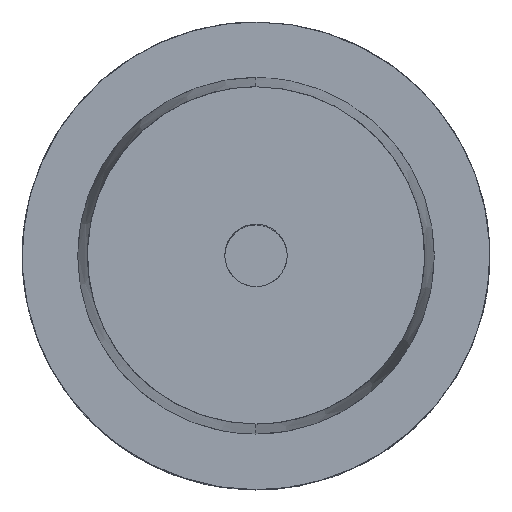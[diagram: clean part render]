
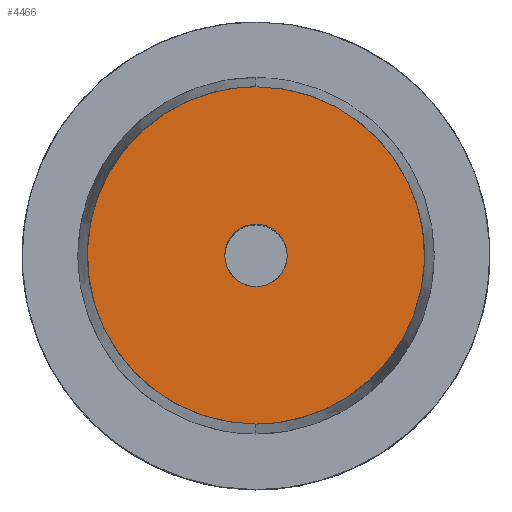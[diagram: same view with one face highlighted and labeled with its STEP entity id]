
A CAD part, top view. The second image highlights one B-rep face of the part: STEP entity #4466.
In plain terms, the highlighted planar face has unit normal (0, 0, -1).
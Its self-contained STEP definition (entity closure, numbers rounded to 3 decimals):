
#4466 = ADVANCED_FACE('',(#4467,#4514),#4483,.T.);
#4467 = FACE_BOUND('',#4468,.T.);
#4468 = EDGE_LOOP('',(#4469,#4496));
#4469 = ORIENTED_EDGE('',*,*,#4470,.T.);
#4470 = EDGE_CURVE('',#4471,#4473,#4475,.T.);
#4471 = VERTEX_POINT('',#4472);
#4472 = CARTESIAN_POINT('',(0.,22.717,32.));
#4473 = VERTEX_POINT('',#4474);
#4474 = CARTESIAN_POINT('',(0.,-22.717,32.));
#4475 = SURFACE_CURVE('',#4476,(#4482),.PCURVE_S1.);
#4476 = ( BOUNDED_CURVE() B_SPLINE_CURVE(2,(#4477,#4478,#4479,#4480,
#4481),.UNSPECIFIED.,.F.,.F.) B_SPLINE_CURVE_WITH_KNOTS((3,2,3),(0.,0.5,
1.),.PIECEWISE_BEZIER_KNOTS.) CURVE() GEOMETRIC_REPRESENTATION_ITEM() 
RATIONAL_B_SPLINE_CURVE((1.,0.707,1.,0.707,1.)) 
REPRESENTATION_ITEM('') );
#4477 = CARTESIAN_POINT('',(0.,22.717,32.));
#4478 = CARTESIAN_POINT('',(22.717,22.717,32.));
#4479 = CARTESIAN_POINT('',(22.717,0.,32.));
#4480 = CARTESIAN_POINT('',(22.717,-22.717,32.));
#4481 = CARTESIAN_POINT('',(0.,-22.717,32.));
#4482 = PCURVE('',#4483,#4488);
#4483 = PLANE('',#4484);
#4484 = AXIS2_PLACEMENT_3D('',#4485,#4486,#4487);
#4485 = CARTESIAN_POINT('',(0.,0.,32.)
  );
#4486 = DIRECTION('',(0.,0.,-1.));
#4487 = DIRECTION('',(0.,1.,0.));
#4488 = DEFINITIONAL_REPRESENTATION('',(#4489),#4495);
#4489 = ( BOUNDED_CURVE() B_SPLINE_CURVE(2,(#4490,#4491,#4492,#4493,
#4494),.UNSPECIFIED.,.F.,.F.) B_SPLINE_CURVE_WITH_KNOTS((3,2,3),(0.,0.5,
1.),.PIECEWISE_BEZIER_KNOTS.) CURVE() GEOMETRIC_REPRESENTATION_ITEM() 
RATIONAL_B_SPLINE_CURVE((1.,0.707,1.,0.707,1.)) 
REPRESENTATION_ITEM('') );
#4490 = CARTESIAN_POINT('',(22.717,0.));
#4491 = CARTESIAN_POINT('',(22.717,22.717));
#4492 = CARTESIAN_POINT('',(0.,22.717));
#4493 = CARTESIAN_POINT('',(-22.717,22.717));
#4494 = CARTESIAN_POINT('',(-22.717,0.));
#4495 = ( GEOMETRIC_REPRESENTATION_CONTEXT(2) 
PARAMETRIC_REPRESENTATION_CONTEXT() REPRESENTATION_CONTEXT('2D SPACE',''
  ) );
#4496 = ORIENTED_EDGE('',*,*,#4497,.T.);
#4497 = EDGE_CURVE('',#4473,#4471,#4498,.T.);
#4498 = SURFACE_CURVE('',#4499,(#4505),.PCURVE_S1.);
#4499 = ( BOUNDED_CURVE() B_SPLINE_CURVE(2,(#4500,#4501,#4502,#4503,
#4504),.UNSPECIFIED.,.F.,.F.) B_SPLINE_CURVE_WITH_KNOTS((3,2,3),(0.,0.5,
1.),.PIECEWISE_BEZIER_KNOTS.) CURVE() GEOMETRIC_REPRESENTATION_ITEM() 
RATIONAL_B_SPLINE_CURVE((1.,0.707,1.,0.707,1.)) 
REPRESENTATION_ITEM('') );
#4500 = CARTESIAN_POINT('',(0.,-22.717,32.));
#4501 = CARTESIAN_POINT('',(-22.717,-22.717,32.));
#4502 = CARTESIAN_POINT('',(-22.717,0.,32.));
#4503 = CARTESIAN_POINT('',(-22.717,22.717,32.));
#4504 = CARTESIAN_POINT('',(0.,22.717,32.));
#4505 = PCURVE('',#4483,#4506);
#4506 = DEFINITIONAL_REPRESENTATION('',(#4507),#4513);
#4507 = ( BOUNDED_CURVE() B_SPLINE_CURVE(2,(#4508,#4509,#4510,#4511,
#4512),.UNSPECIFIED.,.F.,.F.) B_SPLINE_CURVE_WITH_KNOTS((3,2,3),(0.,0.5,
1.),.PIECEWISE_BEZIER_KNOTS.) CURVE() GEOMETRIC_REPRESENTATION_ITEM() 
RATIONAL_B_SPLINE_CURVE((1.,0.707,1.,0.707,1.)) 
REPRESENTATION_ITEM('') );
#4508 = CARTESIAN_POINT('',(-22.717,0.));
#4509 = CARTESIAN_POINT('',(-22.717,-22.717));
#4510 = CARTESIAN_POINT('',(0.,-22.717));
#4511 = CARTESIAN_POINT('',(22.717,-22.717));
#4512 = CARTESIAN_POINT('',(22.717,0.));
#4513 = ( GEOMETRIC_REPRESENTATION_CONTEXT(2) 
PARAMETRIC_REPRESENTATION_CONTEXT() REPRESENTATION_CONTEXT('2D SPACE',''
  ) );
#4514 = FACE_BOUND('',#4515,.T.);
#4515 = EDGE_LOOP('',(#4516,#4538));
#4516 = ORIENTED_EDGE('',*,*,#4517,.T.);
#4517 = EDGE_CURVE('',#4518,#4520,#4522,.T.);
#4518 = VERTEX_POINT('',#4519);
#4519 = CARTESIAN_POINT('',(0.,4.2,32.));
#4520 = VERTEX_POINT('',#4521);
#4521 = CARTESIAN_POINT('',(0.,-4.2,32.));
#4522 = SURFACE_CURVE('',#4523,(#4529),.PCURVE_S1.);
#4523 = ( BOUNDED_CURVE() B_SPLINE_CURVE(2,(#4524,#4525,#4526,#4527,
#4528),.UNSPECIFIED.,.F.,.F.) B_SPLINE_CURVE_WITH_KNOTS((3,2,3),(0.,0.5,
1.),.PIECEWISE_BEZIER_KNOTS.) CURVE() GEOMETRIC_REPRESENTATION_ITEM() 
RATIONAL_B_SPLINE_CURVE((1.,0.707,1.,0.707,1.)) 
REPRESENTATION_ITEM('') );
#4524 = CARTESIAN_POINT('',(0.,4.2,32.));
#4525 = CARTESIAN_POINT('',(-4.2,4.2,32.));
#4526 = CARTESIAN_POINT('',(-4.2,0.,32.));
#4527 = CARTESIAN_POINT('',(-4.2,-4.2,32.));
#4528 = CARTESIAN_POINT('',(0.,-4.2,32.));
#4529 = PCURVE('',#4483,#4530);
#4530 = DEFINITIONAL_REPRESENTATION('',(#4531),#4537);
#4531 = ( BOUNDED_CURVE() B_SPLINE_CURVE(2,(#4532,#4533,#4534,#4535,
#4536),.UNSPECIFIED.,.F.,.F.) B_SPLINE_CURVE_WITH_KNOTS((3,2,3),(0.,0.5,
1.),.PIECEWISE_BEZIER_KNOTS.) CURVE() GEOMETRIC_REPRESENTATION_ITEM() 
RATIONAL_B_SPLINE_CURVE((1.,0.707,1.,0.707,1.)) 
REPRESENTATION_ITEM('') );
#4532 = CARTESIAN_POINT('',(4.2,0.));
#4533 = CARTESIAN_POINT('',(4.2,-4.2));
#4534 = CARTESIAN_POINT('',(0.,-4.2));
#4535 = CARTESIAN_POINT('',(-4.2,-4.2));
#4536 = CARTESIAN_POINT('',(-4.2,0.));
#4537 = ( GEOMETRIC_REPRESENTATION_CONTEXT(2) 
PARAMETRIC_REPRESENTATION_CONTEXT() REPRESENTATION_CONTEXT('2D SPACE',''
  ) );
#4538 = ORIENTED_EDGE('',*,*,#4539,.T.);
#4539 = EDGE_CURVE('',#4520,#4518,#4540,.T.);
#4540 = SURFACE_CURVE('',#4541,(#4547),.PCURVE_S1.);
#4541 = ( BOUNDED_CURVE() B_SPLINE_CURVE(2,(#4542,#4543,#4544,#4545,
#4546),.UNSPECIFIED.,.F.,.F.) B_SPLINE_CURVE_WITH_KNOTS((3,2,3),(0.,0.5,
1.),.PIECEWISE_BEZIER_KNOTS.) CURVE() GEOMETRIC_REPRESENTATION_ITEM() 
RATIONAL_B_SPLINE_CURVE((1.,0.707,1.,0.707,1.)) 
REPRESENTATION_ITEM('') );
#4542 = CARTESIAN_POINT('',(0.,-4.2,32.));
#4543 = CARTESIAN_POINT('',(4.2,-4.2,32.));
#4544 = CARTESIAN_POINT('',(4.2,0.,32.));
#4545 = CARTESIAN_POINT('',(4.2,4.2,32.));
#4546 = CARTESIAN_POINT('',(0.,4.2,32.));
#4547 = PCURVE('',#4483,#4548);
#4548 = DEFINITIONAL_REPRESENTATION('',(#4549),#4555);
#4549 = ( BOUNDED_CURVE() B_SPLINE_CURVE(2,(#4550,#4551,#4552,#4553,
#4554),.UNSPECIFIED.,.F.,.F.) B_SPLINE_CURVE_WITH_KNOTS((3,2,3),(0.,0.5,
1.),.PIECEWISE_BEZIER_KNOTS.) CURVE() GEOMETRIC_REPRESENTATION_ITEM() 
RATIONAL_B_SPLINE_CURVE((1.,0.707,1.,0.707,1.)) 
REPRESENTATION_ITEM('') );
#4550 = CARTESIAN_POINT('',(-4.2,0.));
#4551 = CARTESIAN_POINT('',(-4.2,4.2));
#4552 = CARTESIAN_POINT('',(0.,4.2));
#4553 = CARTESIAN_POINT('',(4.2,4.2));
#4554 = CARTESIAN_POINT('',(4.2,0.));
#4555 = ( GEOMETRIC_REPRESENTATION_CONTEXT(2) 
PARAMETRIC_REPRESENTATION_CONTEXT() REPRESENTATION_CONTEXT('2D SPACE',''
  ) );
